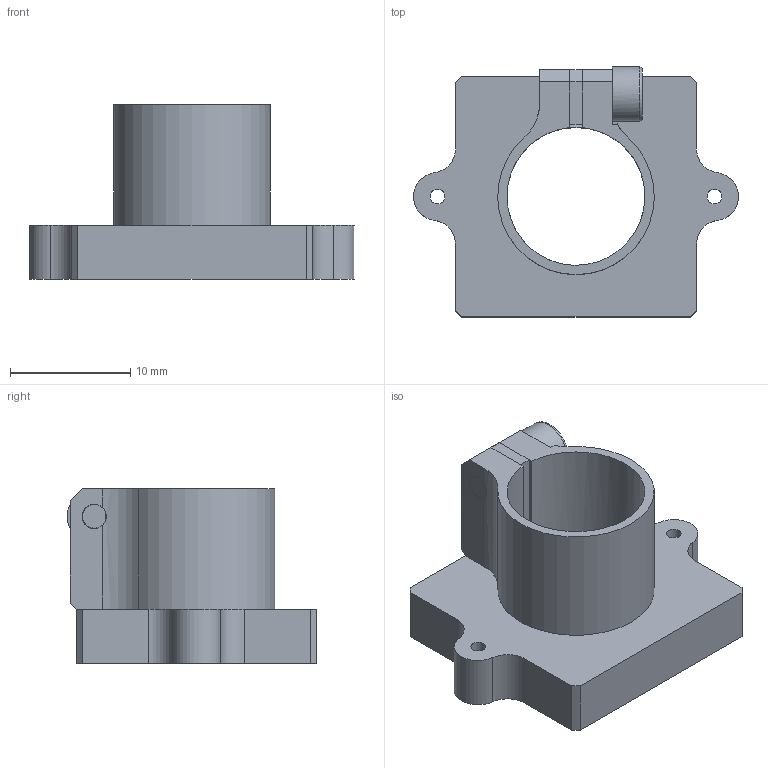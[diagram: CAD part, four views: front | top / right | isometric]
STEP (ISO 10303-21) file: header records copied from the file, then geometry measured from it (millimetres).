
FILE_DESCRIPTION(/* description */ (''),/* implementation_level */ '2;1');
FILE_NAME(/* name */ 'KSM_264-19-0-10-00_ZB MLH 10 mm (Schraube-Silikon).stp',/* time_stamp */ '2026-01-16T15:41:45+01:00',/* author */ ('khw'),/* organization */ ('TIS/ Germany'),/* preprocessor_version */ 'ST-DEVELOPER v20',/* originating_system */ 'Autodesk Inventor 2025',/* authorisation */ '6767,5 mm^3');
FILE_SCHEMA (('AUTOMOTIVE_DESIGN { 1 0 10303 214 3 1 1 }'));
Length unit declared in the file: millimetre
Products named in the file (1): KSM_264-19-0-10-00_ZB MLH 10 mm (Schraube-Silikon)
Bounding box: 26.99 x 20.75 x 14.5 mm (x, y, z)
Volume: 1134.7 mm3; surface area: 2324 mm2
Topology: 1 solids, 2 shells, 72 faces, 194 edges, 125 vertices
Faces by surface type: plane 45, cylinder 23, cone 2, torus 2
Full cylindrical faces by diameter (mm): 1.221 x2, 2.013 x1, 2.5 x1, 2.7 x2, 4.5 x1, 11.459 x1
Entity records: 2413 total; most frequent: CARTESIAN_POINT 433, ORIENTED_EDGE 386, DIRECTION 383, EDGE_CURVE 193, AXIS2_PLACEMENT_3D 128, LINE 127, VECTOR 127, VERTEX_POINT 125
